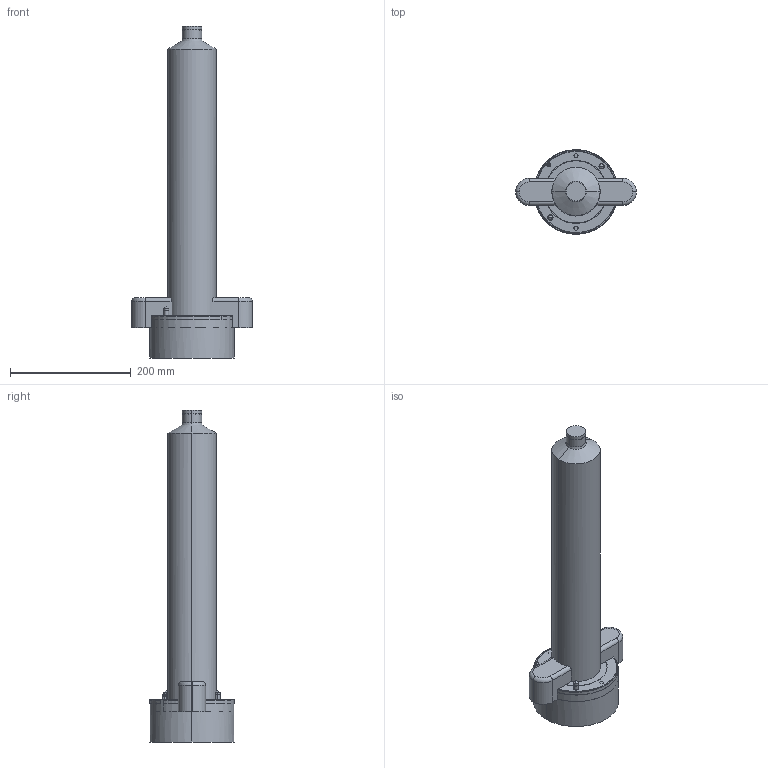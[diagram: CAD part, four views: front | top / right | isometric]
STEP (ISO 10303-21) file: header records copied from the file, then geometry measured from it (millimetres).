
FILE_DESCRIPTION (( 'STEP AP214' ), '1' );
FILE_NAME ('SB24T_CLOSED_A500.STEP', '2009-07-28T19:23:43', ( 'Synventive Molding Solutions' ), ( 'Synventive Molding Solutions' ), 'SwSTEP 2.0', 'SolidWorks 2008', '' );
FILE_SCHEMA (( 'AUTOMOTIVE_DESIGN' ));
Length unit declared in the file: millimetre
Products named in the file (1): SB24T_CLOSED_A500
Bounding box: 200 x 140 x 550 mm (x, y, z)
Volume: 5195646.4 mm3; surface area: 389069.5 mm2
Topology: 4 solids, 11 shells, 553 faces, 1331 edges, 822 vertices
Faces by surface type: cylinder 218, plane 161, torus 90, cone 70, sphere 14
Entity records: 24030 total; most frequent: CARTESIAN_POINT 4946, DIRECTION 2852, ORIENTED_EDGE 2622, EDGE_CURVE 1311, AXIS2_PLACEMENT_3D 1163, VERTEX_POINT 820, EDGE_LOOP 609, CIRCLE 609
